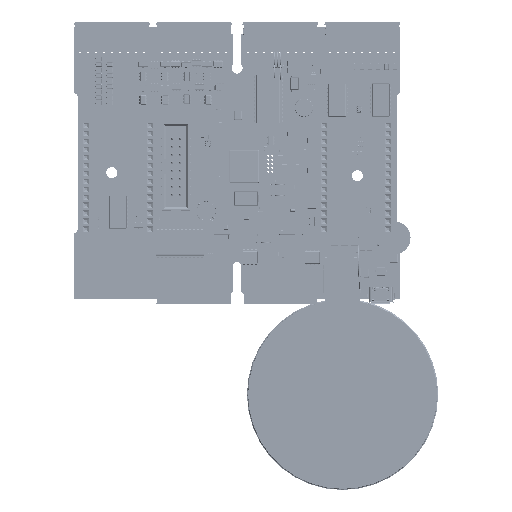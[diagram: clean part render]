
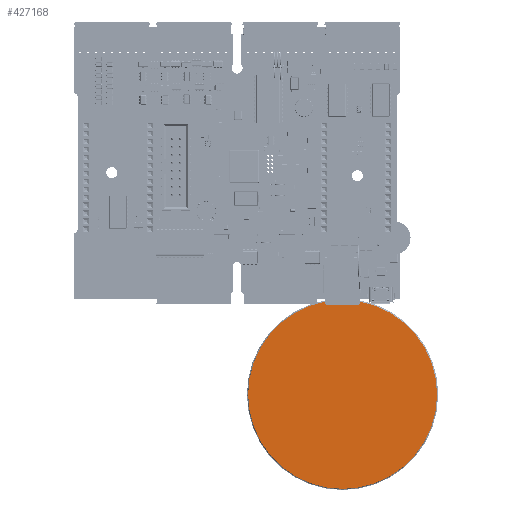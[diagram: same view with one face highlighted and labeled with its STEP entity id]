
A CAD part, top view. The second image highlights one B-rep face of the part: STEP entity #427168.
In plain terms, the highlighted planar face has unit normal (0, 0, 1) by its records, which use the part's own axes.
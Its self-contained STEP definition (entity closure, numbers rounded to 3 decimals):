
#427095 = EDGE_CURVE('',#427096,#427098,#427100,.T.);
#427096 = VERTEX_POINT('',#427097);
#427097 = CARTESIAN_POINT('',(79.851,-0.715,
    1.204));
#427098 = VERTEX_POINT('',#427099);
#427099 = CARTESIAN_POINT('',(79.851,-1.207,
    1.204));
#427100 = LINE('',#427101,#427102);
#427101 = CARTESIAN_POINT('',(79.851,-1.207,
    1.204));
#427102 = VECTOR('',#427103,1.);
#427103 = DIRECTION('',(0.,-1.,0.));
#427140 = VERTEX_POINT('',#427141);
#427141 = CARTESIAN_POINT('',(90.851,-0.715,
    1.204));
#427150 = EDGE_CURVE('',#427151,#427140,#427153,.T.);
#427151 = VERTEX_POINT('',#427152);
#427152 = CARTESIAN_POINT('',(90.851,-1.207,
    1.204));
#427153 = LINE('',#427154,#427155);
#427154 = CARTESIAN_POINT('',(90.851,-1.207,
    1.204));
#427155 = VECTOR('',#427156,1.);
#427156 = DIRECTION('',(0.,1.,0.));
#427168 = ADVANCED_FACE('',(#427169),#427204,.T.);
#427169 = FACE_BOUND('',#427170,.T.);
#427170 = EDGE_LOOP('',(#427171,#427172,#427179,#427180,#427189,#427197)
  );
#427171 = ORIENTED_EDGE('',*,*,#427150,.T.);
#427172 = ORIENTED_EDGE('',*,*,#427173,.T.);
#427173 = EDGE_CURVE('',#427096,#427140,#427174,.T.);
#427174 = CIRCLE('',#427175,30.);
#427175 = AXIS2_PLACEMENT_3D('',#427176,#427177,#427178);
#427176 = CARTESIAN_POINT('',(85.351,-30.207,
    1.204));
#427177 = DIRECTION('',(0.,0.,1.));
#427178 = DIRECTION('',(1.,0.,0.));
#427179 = ORIENTED_EDGE('',*,*,#427095,.T.);
#427180 = ORIENTED_EDGE('',*,*,#427181,.T.);
#427181 = EDGE_CURVE('',#427098,#427182,#427184,.T.);
#427182 = VERTEX_POINT('',#427183);
#427183 = CARTESIAN_POINT('',(80.351,-1.707,
    1.204));
#427184 = CIRCLE('',#427185,0.5);
#427185 = AXIS2_PLACEMENT_3D('',#427186,#427187,#427188);
#427186 = CARTESIAN_POINT('',(80.351,-1.207,
    1.204));
#427187 = DIRECTION('',(0.,0.,1.));
#427188 = DIRECTION('',(1.,0.,0.));
#427189 = ORIENTED_EDGE('',*,*,#427190,.T.);
#427190 = EDGE_CURVE('',#427182,#427191,#427193,.T.);
#427191 = VERTEX_POINT('',#427192);
#427192 = CARTESIAN_POINT('',(90.351,-1.707,
    1.204));
#427193 = LINE('',#427194,#427195);
#427194 = CARTESIAN_POINT('',(80.351,-1.707,
    1.204));
#427195 = VECTOR('',#427196,1.);
#427196 = DIRECTION('',(1.,0.,0.));
#427197 = ORIENTED_EDGE('',*,*,#427198,.T.);
#427198 = EDGE_CURVE('',#427191,#427151,#427199,.T.);
#427199 = CIRCLE('',#427200,0.5);
#427200 = AXIS2_PLACEMENT_3D('',#427201,#427202,#427203);
#427201 = CARTESIAN_POINT('',(90.351,-1.207,
    1.204));
#427202 = DIRECTION('',(0.,0.,1.));
#427203 = DIRECTION('',(1.,0.,0.));
#427204 = PLANE('',#427205);
#427205 = AXIS2_PLACEMENT_3D('',#427206,#427207,#427208);
#427206 = CARTESIAN_POINT('',(90.351,-1.207,
    1.204));
#427207 = DIRECTION('',(0.,0.,1.));
#427208 = DIRECTION('',(1.,0.,0.));
